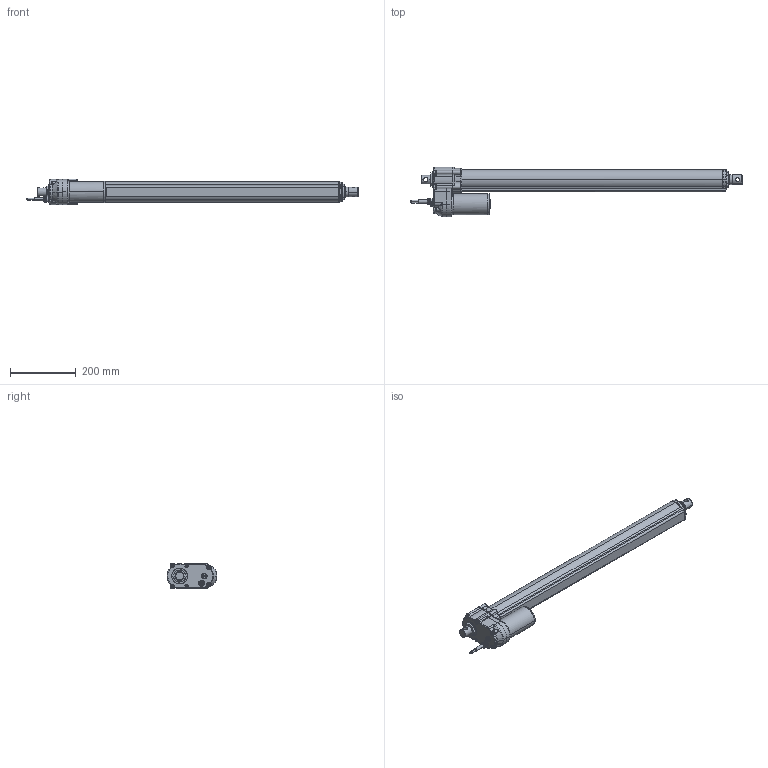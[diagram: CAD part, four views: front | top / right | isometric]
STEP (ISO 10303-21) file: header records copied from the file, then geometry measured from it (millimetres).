
FILE_DESCRIPTION(('STEP AP203'),'1');
FILE_NAME('LINACT-33P-650MM.stp','2025-11-20T12:31:31',('Linear Actuators S.A.'),('Linear Actuators South Africa (Pty) Ltd'),'Spatial InterOp 3D',' ',' ');
FILE_SCHEMA(('CONFIG_CONTROL_DESIGN'));
Length unit declared in the file: millimetre
Products named in the file (1): 1
Bounding box: 1011.27 x 151.4 x 79 mm (x, y, z)
Volume: 3789893.5 mm3; surface area: 258635.3 mm2
Topology: 1 solids, 1 shells, 940 faces, 2391 edges, 1467 vertices
Faces by surface type: torus 294, plane 239, cylinder 234, bspline 105, cone 66, sphere 2
Entity records: 41074 total; most frequent: CARTESIAN_POINT 19629, ORIENTED_EDGE 4728, DIRECTION 4260, EDGE_CURVE 2364, AXIS2_PLACEMENT_3D 1786, VERTEX_POINT 1467, EDGE_LOOP 985, CIRCLE 942
